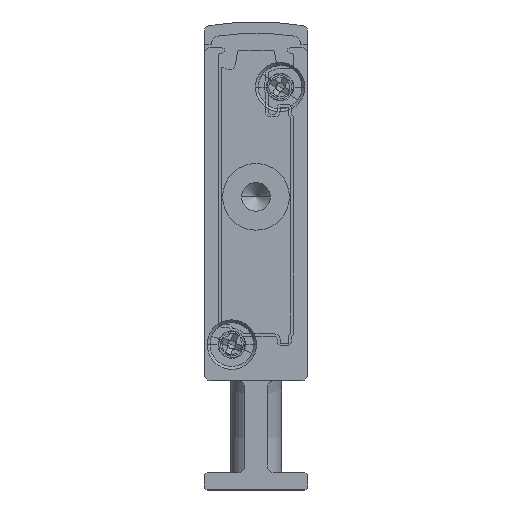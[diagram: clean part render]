
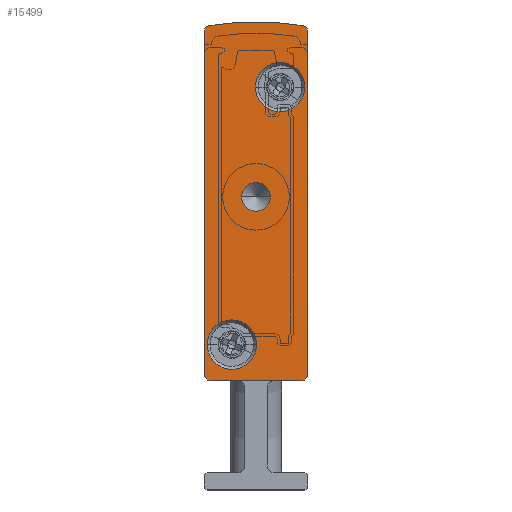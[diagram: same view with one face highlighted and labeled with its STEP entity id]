
A CAD part, front view. The second image highlights one B-rep face of the part: STEP entity #15499.
In plain terms, the highlighted planar face has unit normal (0, -1, 0).
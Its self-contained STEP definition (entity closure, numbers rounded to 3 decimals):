
#28 = DIRECTION ( 'NONE',  ( 0., 1., 0. ) ) ;
#62 = AXIS2_PLACEMENT_3D ( 'NONE', #10207, #10277, #19193 ) ;
#229 = ORIENTED_EDGE ( 'NONE', *, *, #1573, .T. ) ;
#324 = EDGE_CURVE ( 'NONE', #3281, #6246, #4007, .T. ) ;
#444 = CARTESIAN_POINT ( 'NONE',  ( 5.75, -2.5, 25.5 ) ) ;
#450 = AXIS2_PLACEMENT_3D ( 'NONE', #11449, #11513, #2350 ) ;
#918 = CARTESIAN_POINT ( 'NONE',  ( 0.408, -2.5, 40.393 ) ) ;
#1048 = CARTESIAN_POINT ( 'NONE',  ( 6.6, -2.5, 35.05 ) ) ;
#1058 = EDGE_CURVE ( 'NONE', #9158, #13386, #16715, .T. ) ;
#1528 = DIRECTION ( 'NONE',  ( 1., 0., 0. ) ) ;
#1573 = EDGE_CURVE ( 'NONE', #6246, #3281, #8208, .T. ) ;
#1893 = EDGE_CURVE ( 'NONE', #6843, #7242, #13867, .T. ) ;
#2009 = VERTEX_POINT ( 'NONE', #17353 ) ;
#2253 = DIRECTION ( 'NONE',  ( 0., 1., 0. ) ) ;
#2303 = CARTESIAN_POINT ( 'NONE',  ( 0., -2.5, 39.902 ) ) ;
#2350 = DIRECTION ( 'NONE',  ( -1., 0., 0. ) ) ;
#2371 = CARTESIAN_POINT ( 'NONE',  ( 0.5, -2.5, 39.902 ) ) ;
#2538 = VECTOR ( 'NONE', #3860, 1000. ) ;
#2620 = VECTOR ( 'NONE', #15232, 1000. ) ;
#2939 = EDGE_CURVE ( 'NONE', #13386, #9158, #12140, .T. ) ;
#2998 = CARTESIAN_POINT ( 'NONE',  ( 0.5, -2.5, 10. ) ) ;
#3095 = LINE ( 'NONE', #8943, #2620 ) ;
#3277 = LINE ( 'NONE', #6012, #5910 ) ;
#3281 = VERTEX_POINT ( 'NONE', #4757 ) ;
#3366 = DIRECTION ( 'NONE',  ( 1., 0., 0. ) ) ;
#3508 = CIRCLE ( 'NONE', #17527, 2.15 ) ;
#3588 = VERTEX_POINT ( 'NONE', #918 ) ;
#3688 = VERTEX_POINT ( 'NONE', #19474 ) ;
#3860 = DIRECTION ( 'NONE',  ( 0., 0., 1. ) ) ;
#3928 = DIRECTION ( 'NONE',  ( -1., 0., 0. ) ) ;
#4007 = CIRCLE ( 'NONE', #15735, 1.25 ) ;
#4151 = CARTESIAN_POINT ( 'NONE',  ( 9., -2.5, 10. ) ) ;
#4228 = DIRECTION ( 'NONE',  ( 0., 1., 0. ) ) ;
#4315 = FACE_BOUND ( 'NONE', #11459, .T. ) ;
#4544 = DIRECTION ( 'NONE',  ( 0., 0., -1. ) ) ;
#4743 = EDGE_CURVE ( 'NONE', #15992, #7771, #4830, .T. ) ;
#4757 = CARTESIAN_POINT ( 'NONE',  ( 3.25, -2.5, 25.5 ) ) ;
#4830 = CIRCLE ( 'NONE', #10372, 2.15 ) ;
#5384 = ORIENTED_EDGE ( 'NONE', *, *, #4743, .F. ) ;
#5910 = VECTOR ( 'NONE', #4544, 1000. ) ;
#6012 = CARTESIAN_POINT ( 'NONE',  ( 9., -2.5, 39.902 ) ) ;
#6097 = ORIENTED_EDGE ( 'NONE', *, *, #10662, .F. ) ;
#6246 = VERTEX_POINT ( 'NONE', #444 ) ;
#6599 = CARTESIAN_POINT ( 'NONE',  ( 0.5, -2.5, 39.902 ) ) ;
#6695 = FACE_BOUND ( 'NONE', #15418, .T. ) ;
#6722 = DIRECTION ( 'NONE',  ( 0., 1., 0. ) ) ;
#6843 = VERTEX_POINT ( 'NONE', #10261 ) ;
#6858 = CARTESIAN_POINT ( 'NONE',  ( 8.592, -2.5, 40.393 ) ) ;
#7242 = VERTEX_POINT ( 'NONE', #11344 ) ;
#7267 = ORIENTED_EDGE ( 'NONE', *, *, #1058, .F. ) ;
#7305 = EDGE_CURVE ( 'NONE', #3588, #17341, #9718, .T. ) ;
#7314 = CARTESIAN_POINT ( 'NONE',  ( 8.5, -2.5, 10. ) ) ;
#7768 = DIRECTION ( 'NONE',  ( 0., -1., 0. ) ) ;
#7771 = VERTEX_POINT ( 'NONE', #9790 ) ;
#7865 = AXIS2_PLACEMENT_3D ( 'NONE', #12771, #17310, #9770 ) ;
#7893 = ORIENTED_EDGE ( 'NONE', *, *, #19039, .F. ) ;
#8167 = AXIS2_PLACEMENT_3D ( 'NONE', #18815, #2253, #3928 ) ;
#8194 = CARTESIAN_POINT ( 'NONE',  ( 4.45, -2.5, 35.05 ) ) ;
#8208 = CIRCLE ( 'NONE', #450, 1.25 ) ;
#8279 = ORIENTED_EDGE ( 'NONE', *, *, #324, .T. ) ;
#8943 = CARTESIAN_POINT ( 'NONE',  ( 0.5, -2.5, 9.5 ) ) ;
#9108 = EDGE_CURVE ( 'NONE', #3688, #6843, #3095, .T. ) ;
#9158 = VERTEX_POINT ( 'NONE', #18413 ) ;
#9186 = AXIS2_PLACEMENT_3D ( 'NONE', #2998, #28, #13646 ) ;
#9327 = FACE_OUTER_BOUND ( 'NONE', #15277, .T. ) ;
#9348 = ORIENTED_EDGE ( 'NONE', *, *, #7305, .F. ) ;
#9506 = DIRECTION ( 'NONE',  ( 0., 1., 0. ) ) ;
#9718 = CIRCLE ( 'NONE', #8167, 23.658 ) ;
#9770 = DIRECTION ( 'NONE',  ( -1., 0., 0. ) ) ;
#9790 = CARTESIAN_POINT ( 'NONE',  ( 8.75, -2.5, 35.05 ) ) ;
#9872 = PLANE ( 'NONE',  #13989 ) ;
#10033 = EDGE_LOOP ( 'NONE', ( #8279, #229 ) ) ;
#10207 = CARTESIAN_POINT ( 'NONE',  ( 2.4, -2.5, 12.65 ) ) ;
#10261 = CARTESIAN_POINT ( 'NONE',  ( 0.5, -2.5, 9.5 ) ) ;
#10277 = DIRECTION ( 'NONE',  ( 0., -1., 0. ) ) ;
#10372 = AXIS2_PLACEMENT_3D ( 'NONE', #1048, #18169, #1528 ) ;
#10454 = LINE ( 'NONE', #2303, #2538 ) ;
#10662 = EDGE_CURVE ( 'NONE', #17341, #2009, #15391, .T. ) ;
#10934 = VERTEX_POINT ( 'NONE', #4151 ) ;
#11001 = ORIENTED_EDGE ( 'NONE', *, *, #18350, .F. ) ;
#11344 = CARTESIAN_POINT ( 'NONE',  ( 0., -2.5, 10. ) ) ;
#11449 = CARTESIAN_POINT ( 'NONE',  ( 4.5, -2.5, 25.5 ) ) ;
#11459 = EDGE_LOOP ( 'NONE', ( #7267, #14994 ) ) ;
#11513 = DIRECTION ( 'NONE',  ( 0., 1., 0. ) ) ;
#11607 = DIRECTION ( 'NONE',  ( 0., 1., 0. ) ) ;
#11918 = DIRECTION ( 'NONE',  ( -1., 0., 0. ) ) ;
#11931 = ORIENTED_EDGE ( 'NONE', *, *, #9108, .F. ) ;
#12140 = CIRCLE ( 'NONE', #17270, 2.15 ) ;
#12279 = ORIENTED_EDGE ( 'NONE', *, *, #1893, .F. ) ;
#12771 = CARTESIAN_POINT ( 'NONE',  ( 8.5, -2.5, 39.902 ) ) ;
#13073 = CIRCLE ( 'NONE', #16987, 0.5 ) ;
#13077 = EDGE_CURVE ( 'NONE', #7771, #15992, #3508, .T. ) ;
#13168 = EDGE_CURVE ( 'NONE', #2009, #10934, #3277, .T. ) ;
#13250 = DIRECTION ( 'NONE',  ( -1., 0., 0. ) ) ;
#13386 = VERTEX_POINT ( 'NONE', #14224 ) ;
#13646 = DIRECTION ( 'NONE',  ( -1., 0., 0. ) ) ;
#13797 = DIRECTION ( 'NONE',  ( 1., 0., 0. ) ) ;
#13838 = FACE_BOUND ( 'NONE', #10033, .T. ) ;
#13863 = CARTESIAN_POINT ( 'NONE',  ( 6.6, -2.5, 35.05 ) ) ;
#13867 = CIRCLE ( 'NONE', #9186, 0.5 ) ;
#13989 = AXIS2_PLACEMENT_3D ( 'NONE', #6599, #6722, #17283 ) ;
#14068 = CARTESIAN_POINT ( 'NONE',  ( 4.5, -2.5, 25.5 ) ) ;
#14196 = DIRECTION ( 'NONE',  ( -1., 0., 0. ) ) ;
#14224 = CARTESIAN_POINT ( 'NONE',  ( 0.25, -2.5, 12.65 ) ) ;
#14994 = ORIENTED_EDGE ( 'NONE', *, *, #2939, .F. ) ;
#15080 = CARTESIAN_POINT ( 'NONE',  ( 0., -2.5, 39.902 ) ) ;
#15153 = ORIENTED_EDGE ( 'NONE', *, *, #16323, .F. ) ;
#15232 = DIRECTION ( 'NONE',  ( -1., 0., 0. ) ) ;
#15277 = EDGE_LOOP ( 'NONE', ( #11001, #7893, #12279, #11931, #15153, #19284, #6097, #9348 ) ) ;
#15391 = CIRCLE ( 'NONE', #7865, 0.5 ) ;
#15418 = EDGE_LOOP ( 'NONE', ( #17049, #5384 ) ) ;
#15499 = ADVANCED_FACE ( 'NONE', ( #6695, #4315, #9327, #13838 ), #9872, .F. ) ;
#15649 = DIRECTION ( 'NONE',  ( 0., -1., 0. ) ) ;
#15735 = AXIS2_PLACEMENT_3D ( 'NONE', #14068, #9506, #14196 ) ;
#15992 = VERTEX_POINT ( 'NONE', #8194 ) ;
#16323 = EDGE_CURVE ( 'NONE', #10934, #3688, #13073, .T. ) ;
#16715 = CIRCLE ( 'NONE', #62, 2.15 ) ;
#16987 = AXIS2_PLACEMENT_3D ( 'NONE', #7314, #4228, #11918 ) ;
#17049 = ORIENTED_EDGE ( 'NONE', *, *, #13077, .F. ) ;
#17182 = CARTESIAN_POINT ( 'NONE',  ( 2.4, -2.5, 12.65 ) ) ;
#17270 = AXIS2_PLACEMENT_3D ( 'NONE', #17182, #15649, #3366 ) ;
#17283 = DIRECTION ( 'NONE',  ( -1., 0., 0. ) ) ;
#17310 = DIRECTION ( 'NONE',  ( 0., 1., 0. ) ) ;
#17341 = VERTEX_POINT ( 'NONE', #6858 ) ;
#17353 = CARTESIAN_POINT ( 'NONE',  ( 9., -2.5, 39.902 ) ) ;
#17527 = AXIS2_PLACEMENT_3D ( 'NONE', #13863, #7768, #13797 ) ;
#17602 = VERTEX_POINT ( 'NONE', #15080 ) ;
#18169 = DIRECTION ( 'NONE',  ( 0., -1., 0. ) ) ;
#18350 = EDGE_CURVE ( 'NONE', #17602, #3588, #19682, .T. ) ;
#18413 = CARTESIAN_POINT ( 'NONE',  ( 4.55, -2.5, 12.65 ) ) ;
#18706 = AXIS2_PLACEMENT_3D ( 'NONE', #2371, #11607, #13250 ) ;
#18815 = CARTESIAN_POINT ( 'NONE',  ( 4.5, -2.5, 17.092 ) ) ;
#19039 = EDGE_CURVE ( 'NONE', #7242, #17602, #10454, .T. ) ;
#19193 = DIRECTION ( 'NONE',  ( 1., 0., 0. ) ) ;
#19284 = ORIENTED_EDGE ( 'NONE', *, *, #13168, .F. ) ;
#19474 = CARTESIAN_POINT ( 'NONE',  ( 8.5, -2.5, 9.5 ) ) ;
#19682 = CIRCLE ( 'NONE', #18706, 0.5 ) ;
